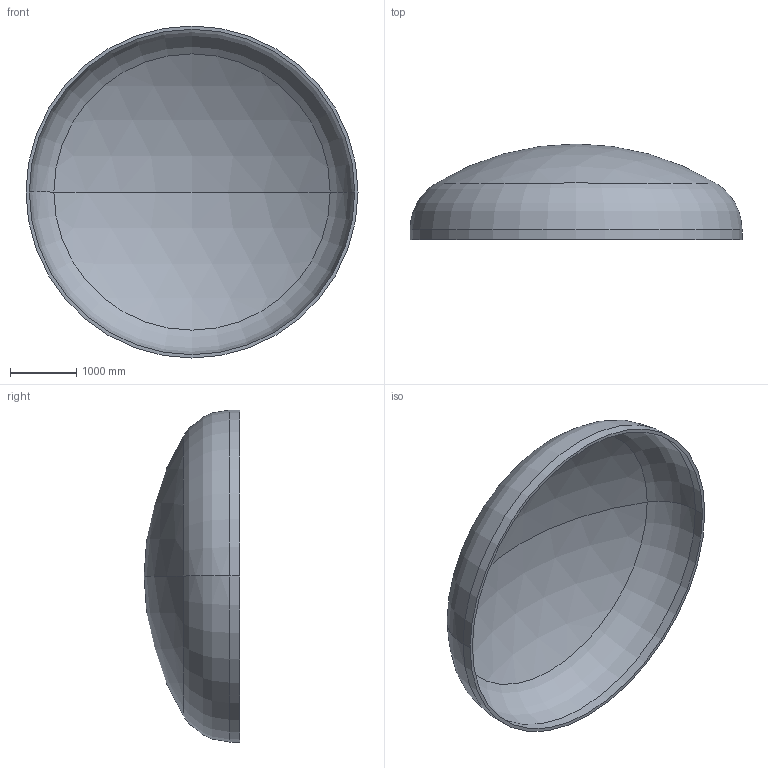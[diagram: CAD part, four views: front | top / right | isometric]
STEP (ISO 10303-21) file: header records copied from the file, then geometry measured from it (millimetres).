
FILE_DESCRIPTION (( 'STEP AP203' ), '1' );
FILE_NAME ('DIN 28013 Korbbogenform_-_Boden DIN 28013 - 5000 x 150 - I - s=50.step', '2016-07-02T00:35:32', ( '' ), ( '' ), 'SwSTEP 2.0', 'SolidWorks 2013', '' );
FILE_SCHEMA (( 'CONFIG_CONTROL_DESIGN' ));
Length unit declared in the file: millimetre
Products named in the file (1): DIN 28013 Korbbogenform_-_Boden DIN 28013 - 5000 x 150 - I - s=50
Bounding box: 5000 x 1441.29 x 5000 mm (x, y, z)
Volume: 1458474955.7 mm3; surface area: 59121756.9 mm2
Topology: 1 solids, 1 shells, 13 faces, 24 edges, 14 vertices
Faces by surface type: torus 4, cylinder 4, sphere 4, plane 1
Entity records: 407 total; most frequent: DIRECTION 72, CARTESIAN_POINT 52, ORIENTED_EDGE 48, AXIS2_PLACEMENT_3D 34, EDGE_CURVE 24, CIRCLE 20, EDGE_LOOP 14, VERTEX_POINT 14
